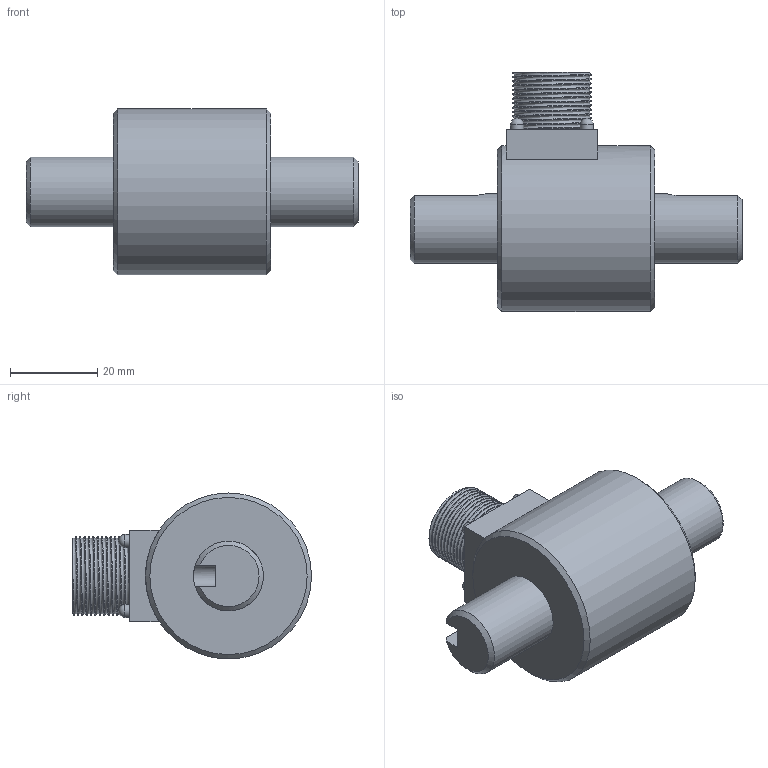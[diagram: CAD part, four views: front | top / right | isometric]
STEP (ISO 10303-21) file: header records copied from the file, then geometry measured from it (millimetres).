
FILE_DESCRIPTION(/* description */ (''),/* implementation_level */ '2;1');
FILE_NAME(/* name */ 'I:/New Datasheets/STEP Models/Pending models/YDNS/YDNS 10Nm.step',/* time_stamp */ '2020-10-08T10:17:44+01:00',/* author */ (''),/* organization */ (''),/* preprocessor_version */ 'ST-DEVELOPER v18.1',/* originating_system */ 'Autodesk Translation Framework v9.3.0.1241',/* authorisation */ '');
FILE_SCHEMA (('AUTOMOTIVE_DESIGN { 1 0 10303 214 3 1 1 }'));
Length unit declared in the file: millimetre
Products named in the file (3): YDNS 10Nm; YDNS 1KM Body; YDNS 1KM Shaft
Assembly tree (2 placements, depth 2):
  YDNS 10Nm
    YDNS 1KM Body
    YDNS 1KM Shaft
Bounding box: 76 x 54.7 x 38 mm (x, y, z)
Volume: 53147 mm3; surface area: 13866.2 mm2
Topology: 2 solids, 2 shells, 48 faces, 121 edges, 79 vertices
Faces by surface type: cylinder 23, plane 16, sphere 4, cone 4, bspline 1
Full cylindrical faces by diameter (mm): 3 x4, 16 x2, 18 x12, 38 x1
Entity records: 4191 total; most frequent: CARTESIAN_POINT 2959, ORIENTED_EDGE 234, DIRECTION 216, EDGE_CURVE 117, AXIS2_PLACEMENT_3D 83, VERTEX_POINT 79, EDGE_LOOP 56, LINE 50
